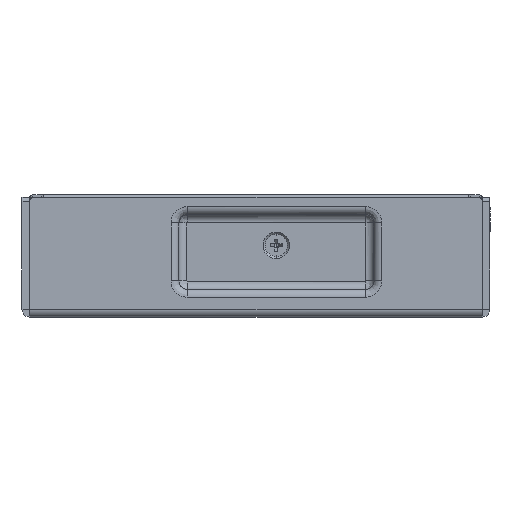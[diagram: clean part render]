
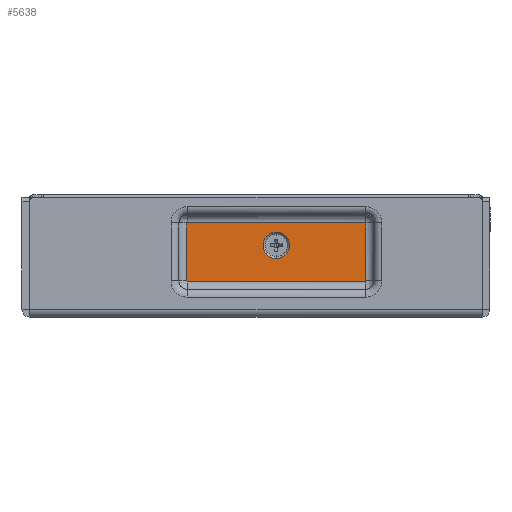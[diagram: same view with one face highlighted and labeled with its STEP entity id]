
A CAD part, left-side view. The second image highlights one B-rep face of the part: STEP entity #5638.
In plain terms, the highlighted planar face has unit normal (-1, 0, 0).
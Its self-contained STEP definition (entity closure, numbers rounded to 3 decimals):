
#118 = CARTESIAN_POINT ( 'NONE',  ( 3., 30.498, 7.04 ) ) ;
#1842 = DIRECTION ( 'NONE',  ( 0., 0., 1. ) ) ;
#1930 = CARTESIAN_POINT ( 'NONE',  ( 3., 30.624, 6.948 ) ) ;
#2520 = EDGE_CURVE ( 'NONE', #7383, #53568, #23165, .T. ) ;
#2771 = EDGE_CURVE ( 'NONE', #26323, #53568, #26399, .T. ) ;
#3058 = CARTESIAN_POINT ( 'NONE',  ( 3., 30.501, 21.359 ) ) ;
#3958 = CARTESIAN_POINT ( 'NONE',  ( 3., 30.591, 6.951 ) ) ;
#4000 = CARTESIAN_POINT ( 'NONE',  ( 3., 74.488, 21.393 ) ) ;
#4303 = CARTESIAN_POINT ( 'NONE',  ( 3., 74.502, 21.36 ) ) ;
#5164 = CARTESIAN_POINT ( 'NONE',  ( 3., 74.376, 6.948 ) ) ;
#5638 = ADVANCED_FACE ( 'NONE', ( #56306, #11913 ), #51321, .T. ) ;
#6068 = CARTESIAN_POINT ( 'NONE',  ( 3., 74.376, 21.452 ) ) ;
#7383 = VERTEX_POINT ( 'NONE', #43913 ) ;
#7791 = LINE ( 'NONE', #17479, #52434 ) ;
#7981 = CARTESIAN_POINT ( 'NONE',  ( 3., 30.624, 6.948 ) ) ;
#8073 = CARTESIAN_POINT ( 'NONE',  ( 3., 30.512, 7.007 ) ) ;
#8230 = B_SPLINE_CURVE_WITH_KNOTS ( 'NONE', 3,
 ( #26898, #21584, #3958, #8655, #43958, #8073, #118, #39542 ),
 .UNSPECIFIED., .F., .F.,
 ( 4, 2, 2, 4 ),
 ( 0., 0.25, 0.5, 1. ),
 .UNSPECIFIED. ) ;
#8655 = CARTESIAN_POINT ( 'NONE',  ( 3., 30.561, 6.963 ) ) ;
#9926 = DIRECTION ( 'NONE',  ( 0., 0., 1. ) ) ;
#11510 = VECTOR ( 'NONE', #23414, 1000. ) ;
#11913 = FACE_OUTER_BOUND ( 'NONE', #49722, .T. ) ;
#12807 = CARTESIAN_POINT ( 'NONE',  ( 3., 74.439, 21.437 ) ) ;
#13094 = CARTESIAN_POINT ( 'NONE',  ( 3., 74.409, 21.449 ) ) ;
#13198 = EDGE_LOOP ( 'NONE', ( #15233, #54618 ) ) ;
#14066 = EDGE_CURVE ( 'NONE', #17909, #49465, #18111, .T. ) ;
#14562 = CARTESIAN_POINT ( 'NONE',  ( 3., 74.477, 6.996 ) ) ;
#14573 = CARTESIAN_POINT ( 'NONE',  ( 3., 52.5, 12.55 ) ) ;
#15233 = ORIENTED_EDGE ( 'NONE', *, *, #14066, .T. ) ;
#15433 = CARTESIAN_POINT ( 'NONE',  ( 3., 30.513, 21.389 ) ) ;
#15973 = EDGE_CURVE ( 'NONE', #49465, #17909, #39799, .T. ) ;
#16617 = CARTESIAN_POINT ( 'NONE',  ( 3., 76.41, 23.308 ) ) ;
#17427 = VECTOR ( 'NONE', #35340, 1000. ) ;
#17479 = CARTESIAN_POINT ( 'NONE',  ( 3., 30.498, 21.326 ) ) ;
#17909 = VERTEX_POINT ( 'NONE', #14573 ) ;
#18111 = CIRCLE ( 'NONE', #23756, 3.25 ) ;
#18682 = CARTESIAN_POINT ( 'NONE',  ( 3., 74.499, 7.041 ) ) ;
#18740 = AXIS2_PLACEMENT_3D ( 'NONE', #16617, #30146, #29573 ) ;
#20744 = VERTEX_POINT ( 'NONE', #1930 ) ;
#20886 = EDGE_CURVE ( 'NONE', #20744, #52444, #8230, .T. ) ;
#20988 = CARTESIAN_POINT ( 'NONE',  ( 3., 30.59, 21.452 ) ) ;
#21019 = CARTESIAN_POINT ( 'NONE',  ( 3., 52.5, 15.8 ) ) ;
#21584 = CARTESIAN_POINT ( 'NONE',  ( 3., 30.607, 6.948 ) ) ;
#21784 = LINE ( 'NONE', #7981, #17427 ) ;
#21914 = B_SPLINE_CURVE_WITH_KNOTS ( 'NONE', 3,
 ( #54817, #26932, #18682, #36035, #14562, #31637, #49562, #5164 ),
 .UNSPECIFIED., .F., .F.,
 ( 4, 2, 2, 4 ),
 ( 0., 0.25, 0.5, 1. ),
 .UNSPECIFIED. ) ;
#23165 = LINE ( 'NONE', #41119, #44490 ) ;
#23414 = DIRECTION ( 'NONE',  ( 0., -1., 0. ) ) ;
#23739 = CARTESIAN_POINT ( 'NONE',  ( 3., 52.5, 19.05 ) ) ;
#23756 = AXIS2_PLACEMENT_3D ( 'NONE', #21019, #35436, #53320 ) ;
#24027 = EDGE_CURVE ( 'NONE', #48419, #52444, #7791, .T. ) ;
#25727 = DIRECTION ( 'NONE',  ( 0., 0., -1. ) ) ;
#26048 = CARTESIAN_POINT ( 'NONE',  ( 3., 74.502, 21.326 ) ) ;
#26323 = VERTEX_POINT ( 'NONE', #53354 ) ;
#26327 = CARTESIAN_POINT ( 'NONE',  ( 3., 74.393, 21.452 ) ) ;
#26399 = B_SPLINE_CURVE_WITH_KNOTS ( 'NONE', 3,
 ( #57779, #26327, #13094, #12807, #34866, #4000, #4303, #26048 ),
 .UNSPECIFIED., .F., .F.,
 ( 4, 2, 2, 4 ),
 ( 0., 0.25, 0.5, 1. ),
 .UNSPECIFIED. ) ;
#26536 = EDGE_CURVE ( 'NONE', #48419, #43716, #30856, .T. ) ;
#26602 = AXIS2_PLACEMENT_3D ( 'NONE', #34949, #52561, #1842 ) ;
#26898 = CARTESIAN_POINT ( 'NONE',  ( 3., 30.624, 6.948 ) ) ;
#26932 = CARTESIAN_POINT ( 'NONE',  ( 3., 74.502, 7.057 ) ) ;
#27142 = EDGE_CURVE ( 'NONE', #20744, #32943, #21784, .T. ) ;
#29245 = CARTESIAN_POINT ( 'NONE',  ( 3., 30.498, 21.326 ) ) ;
#29573 = DIRECTION ( 'NONE',  ( 0., 0., 1. ) ) ;
#30146 = DIRECTION ( 'NONE',  ( -1., 0., 0. ) ) ;
#30154 = ORIENTED_EDGE ( 'NONE', *, *, #2771, .T. ) ;
#30187 = EDGE_CURVE ( 'NONE', #26323, #43716, #37808, .T. ) ;
#30856 = B_SPLINE_CURVE_WITH_KNOTS ( 'NONE', 3,
 ( #29245, #38365, #3058, #15433, #33664, #55987, #20988, #43064 ),
 .UNSPECIFIED., .F., .F.,
 ( 4, 2, 2, 4 ),
 ( 0., 0.25, 0.5, 1. ),
 .UNSPECIFIED. ) ;
#31637 = CARTESIAN_POINT ( 'NONE',  ( 3., 74.443, 6.962 ) ) ;
#32191 = CARTESIAN_POINT ( 'NONE',  ( 3., 30.498, 21.326 ) ) ;
#32914 = ORIENTED_EDGE ( 'NONE', *, *, #26536, .T. ) ;
#32943 = VERTEX_POINT ( 'NONE', #49307 ) ;
#33664 = CARTESIAN_POINT ( 'NONE',  ( 3., 30.523, 21.404 ) ) ;
#34866 = CARTESIAN_POINT ( 'NONE',  ( 3., 74.454, 21.427 ) ) ;
#34909 = ORIENTED_EDGE ( 'NONE', *, *, #27142, .F. ) ;
#34949 = CARTESIAN_POINT ( 'NONE',  ( 3., 52.5, 15.8 ) ) ;
#35202 = ORIENTED_EDGE ( 'NONE', *, *, #48500, .T. ) ;
#35340 = DIRECTION ( 'NONE',  ( 0., 1., 0. ) ) ;
#35436 = DIRECTION ( 'NONE',  ( 1., 0., 0. ) ) ;
#35577 = ORIENTED_EDGE ( 'NONE', *, *, #24027, .F. ) ;
#36035 = CARTESIAN_POINT ( 'NONE',  ( 3., 74.487, 7.011 ) ) ;
#37808 = LINE ( 'NONE', #6068, #11510 ) ;
#38365 = CARTESIAN_POINT ( 'NONE',  ( 3., 30.498, 21.343 ) ) ;
#39278 = ORIENTED_EDGE ( 'NONE', *, *, #20886, .T. ) ;
#39542 = CARTESIAN_POINT ( 'NONE',  ( 3., 30.498, 7.074 ) ) ;
#39799 = CIRCLE ( 'NONE', #26602, 3.25 ) ;
#41119 = CARTESIAN_POINT ( 'NONE',  ( 3., 74.502, 7.074 ) ) ;
#43064 = CARTESIAN_POINT ( 'NONE',  ( 3., 30.624, 21.452 ) ) ;
#43716 = VERTEX_POINT ( 'NONE', #48207 ) ;
#43913 = CARTESIAN_POINT ( 'NONE',  ( 3., 74.502, 7.074 ) ) ;
#43958 = CARTESIAN_POINT ( 'NONE',  ( 3., 30.546, 6.973 ) ) ;
#44490 = VECTOR ( 'NONE', #9926, 1000. ) ;
#44887 = ORIENTED_EDGE ( 'NONE', *, *, #30187, .F. ) ;
#46081 = CARTESIAN_POINT ( 'NONE',  ( 3., 74.502, 21.326 ) ) ;
#46358 = CARTESIAN_POINT ( 'NONE',  ( 3., 30.498, 7.074 ) ) ;
#48207 = CARTESIAN_POINT ( 'NONE',  ( 3., 30.624, 21.452 ) ) ;
#48419 = VERTEX_POINT ( 'NONE', #32191 ) ;
#48500 = EDGE_CURVE ( 'NONE', #7383, #32943, #21914, .T. ) ;
#49307 = CARTESIAN_POINT ( 'NONE',  ( 3., 74.376, 6.948 ) ) ;
#49465 = VERTEX_POINT ( 'NONE', #23739 ) ;
#49562 = CARTESIAN_POINT ( 'NONE',  ( 3., 74.41, 6.948 ) ) ;
#49722 = EDGE_LOOP ( 'NONE', ( #35202, #34909, #39278, #35577, #32914, #44887, #30154, #54504 ) ) ;
#51321 = PLANE ( 'NONE',  #18740 ) ;
#52434 = VECTOR ( 'NONE', #25727, 1000. ) ;
#52444 = VERTEX_POINT ( 'NONE', #46358 ) ;
#52561 = DIRECTION ( 'NONE',  ( 1., 0., 0. ) ) ;
#53320 = DIRECTION ( 'NONE',  ( 0., 0., -1. ) ) ;
#53354 = CARTESIAN_POINT ( 'NONE',  ( 3., 74.376, 21.452 ) ) ;
#53568 = VERTEX_POINT ( 'NONE', #46081 ) ;
#54504 = ORIENTED_EDGE ( 'NONE', *, *, #2520, .F. ) ;
#54618 = ORIENTED_EDGE ( 'NONE', *, *, #15973, .T. ) ;
#54817 = CARTESIAN_POINT ( 'NONE',  ( 3., 74.502, 7.074 ) ) ;
#55987 = CARTESIAN_POINT ( 'NONE',  ( 3., 30.557, 21.438 ) ) ;
#56306 = FACE_BOUND ( 'NONE', #13198, .T. ) ;
#57779 = CARTESIAN_POINT ( 'NONE',  ( 3., 74.376, 21.452 ) ) ;
